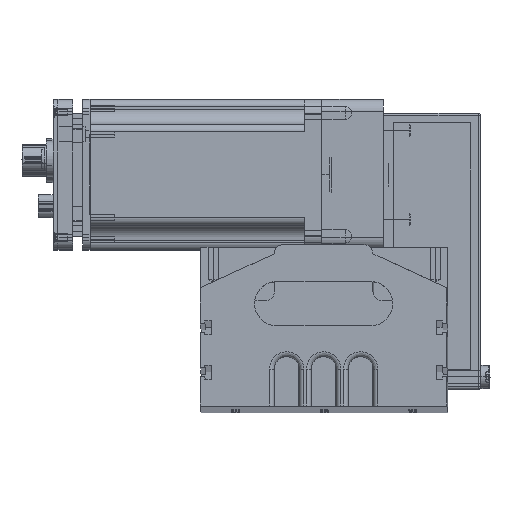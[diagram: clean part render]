
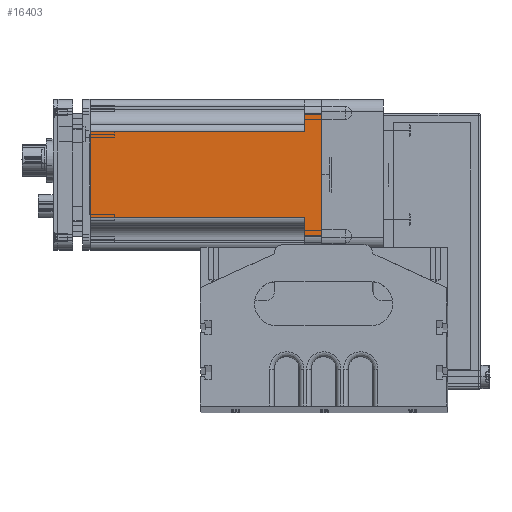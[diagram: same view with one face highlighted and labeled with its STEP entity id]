
A CAD part, top view. The second image highlights one B-rep face of the part: STEP entity #16403.
In plain terms, the highlighted planar face has unit normal (0, 0, 1).
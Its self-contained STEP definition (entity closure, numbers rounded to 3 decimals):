
#15786 = VERTEX_POINT ( 'NONE', #43139 ) ;
#15790 = EDGE_CURVE ( 'NONE', #15794, #15786, #43129, .T. ) ;
#15794 = VERTEX_POINT ( 'NONE', #43115 ) ;
#16024 = EDGE_CURVE ( 'NONE', #16053, #15794, #43393, .T. ) ;
#16053 = VERTEX_POINT ( 'NONE', #43370 ) ;
#16265 = EDGE_CURVE ( 'NONE', #16271, #16412, #43610, .T. ) ;
#16267 = ORIENTED_EDGE ( 'NONE', *, *, #16383, .F. ) ;
#16271 = VERTEX_POINT ( 'NONE', #43609 ) ;
#16273 = EDGE_LOOP ( 'NONE', ( #16406, #16402, #16411, #16293, #16408, #16380, #16393, #16267 ) ) ;
#16284 = VERTEX_POINT ( 'NONE', #43601 ) ;
#16291 = EDGE_CURVE ( 'NONE', #16053, #16412, #43648, .T. ) ;
#16292 = VERTEX_POINT ( 'NONE', #43645 ) ;
#16293 = ORIENTED_EDGE ( 'NONE', *, *, #16291, .T. ) ;
#16311 = EDGE_CURVE ( 'NONE', #15786, #16292, #43641, .T. ) ;
#16371 = VERTEX_POINT ( 'NONE', #43715 ) ;
#16372 = EDGE_CURVE ( 'NONE', #16371, #16271, #43729, .T. ) ;
#16380 = ORIENTED_EDGE ( 'NONE', *, *, #16372, .F. ) ;
#16381 = EDGE_CURVE ( 'NONE', #16284, #16371, #43730, .T. ) ;
#16383 = EDGE_CURVE ( 'NONE', #16292, #16284, #43728, .T. ) ;
#16393 = ORIENTED_EDGE ( 'NONE', *, *, #16381, .F. ) ;
#16402 = ORIENTED_EDGE ( 'NONE', *, *, #15790, .F. ) ;
#16403 = ADVANCED_FACE ( 'NONE', ( #43760 ), #43748, .F. ) ;
#16406 = ORIENTED_EDGE ( 'NONE', *, *, #16311, .F. ) ;
#16408 = ORIENTED_EDGE ( 'NONE', *, *, #16265, .F. ) ;
#16411 = ORIENTED_EDGE ( 'NONE', *, *, #16024, .F. ) ;
#16412 = VERTEX_POINT ( 'NONE', #43713 ) ;
#43115 = CARTESIAN_POINT ( 'NONE',  ( -24.5, 7., 30.5 ) ) ;
#43116 = DIRECTION ( 'NONE',  ( 1., 0., 0. ) ) ;
#43117 = VECTOR ( 'NONE', #43116, 1000. ) ;
#43128 = CARTESIAN_POINT ( 'NONE',  ( -24.5, 7., 30.5 ) ) ;
#43129 = LINE ( 'NONE', #43128, #43117 ) ;
#43139 = CARTESIAN_POINT ( 'NONE',  ( -17.5, 7., 30.5 ) ) ;
#43370 = CARTESIAN_POINT ( 'NONE',  ( -24.5, 0., 30.5 ) ) ;
#43381 = DIRECTION ( 'NONE',  ( 0., 1., 0. ) ) ;
#43382 = VECTOR ( 'NONE', #43381, 1000. ) ;
#43383 = CARTESIAN_POINT ( 'NONE',  ( -24.5, 7., 30.5 ) ) ;
#43393 = LINE ( 'NONE', #43383, #43382 ) ;
#43601 = CARTESIAN_POINT ( 'NONE',  ( 17.5, 94., 30.5 ) ) ;
#43607 = DIRECTION ( 'NONE',  ( 0., -1., 0. ) ) ;
#43609 = CARTESIAN_POINT ( 'NONE',  ( 24.5, 7., 30.5 ) ) ;
#43610 = LINE ( 'NONE', #43617, #43616 ) ;
#43616 = VECTOR ( 'NONE', #43607, 1000. ) ;
#43617 = CARTESIAN_POINT ( 'NONE',  ( 24.5, 7., 30.5 ) ) ;
#43630 = DIRECTION ( 'NONE',  ( 0., 1., 0. ) ) ;
#43631 = VECTOR ( 'NONE', #43630, 1000. ) ;
#43640 = CARTESIAN_POINT ( 'NONE',  ( -17.5, 7., 30.5 ) ) ;
#43641 = LINE ( 'NONE', #43640, #43631 ) ;
#43642 = DIRECTION ( 'NONE',  ( 1., 0., 0. ) ) ;
#43643 = VECTOR ( 'NONE', #43642, 1000. ) ;
#43645 = CARTESIAN_POINT ( 'NONE',  ( -17.5, 94., 30.5 ) ) ;
#43647 = CARTESIAN_POINT ( 'NONE',  ( -24.5, 0., 30.5 ) ) ;
#43648 = LINE ( 'NONE', #43647, #43643 ) ;
#43702 = DIRECTION ( 'NONE',  ( 1., 0., 0. ) ) ;
#43703 = VECTOR ( 'NONE', #43702, 1000. ) ;
#43704 = CARTESIAN_POINT ( 'NONE',  ( 26.5, 94., 30.5 ) ) ;
#43707 = DIRECTION ( 'NONE',  ( 0., -1., 0. ) ) ;
#43708 = VECTOR ( 'NONE', #43707, 1000. ) ;
#43710 = DIRECTION ( 'NONE',  ( 1., 0., 0. ) ) ;
#43711 = VECTOR ( 'NONE', #43710, 1000. ) ;
#43712 = CARTESIAN_POINT ( 'NONE',  ( -24.5, 7., 30.5 ) ) ;
#43713 = CARTESIAN_POINT ( 'NONE',  ( 24.5, 0., 30.5 ) ) ;
#43714 = CARTESIAN_POINT ( 'NONE',  ( 17.5, 95.35, 30.5 ) ) ;
#43715 = CARTESIAN_POINT ( 'NONE',  ( 17.5, 7., 30.5 ) ) ;
#43728 = LINE ( 'NONE', #43704, #43703 ) ;
#43729 = LINE ( 'NONE', #43712, #43711 ) ;
#43730 = LINE ( 'NONE', #43714, #43708 ) ;
#43737 = DIRECTION ( 'NONE',  ( -1., 0., 0. ) ) ;
#43738 = DIRECTION ( 'NONE',  ( 0., 0., -1. ) ) ;
#43748 = PLANE ( 'NONE',  #43749 ) ;
#43749 = AXIS2_PLACEMENT_3D ( 'NONE', #43753, #43738, #43737 ) ;
#43753 = CARTESIAN_POINT ( 'NONE',  ( -24.5, 7., 30.5 ) ) ;
#43760 = FACE_OUTER_BOUND ( 'NONE', #16273, .T. ) ;
